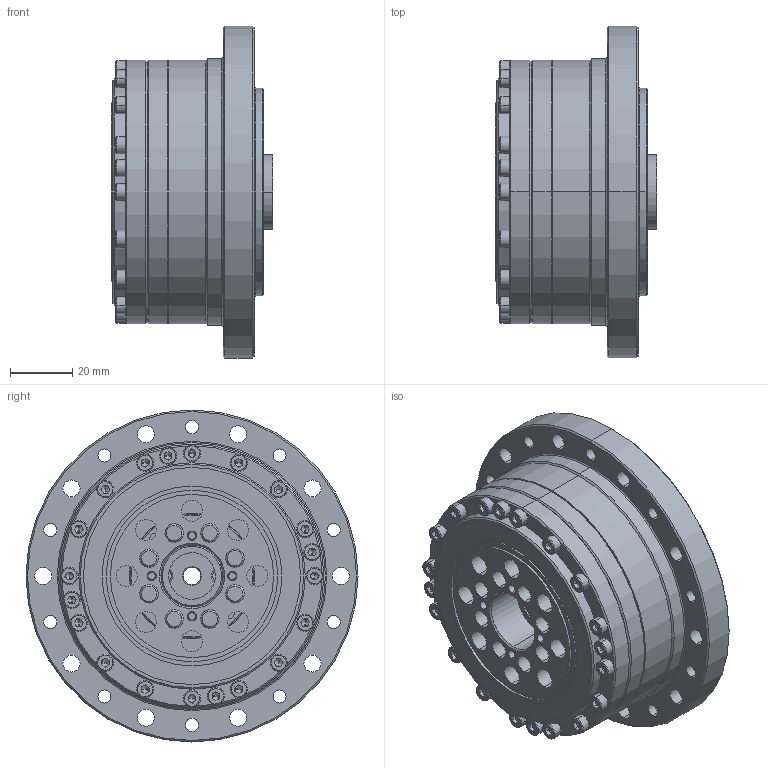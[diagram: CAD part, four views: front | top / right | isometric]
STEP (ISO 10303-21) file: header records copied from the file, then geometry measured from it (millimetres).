
FILE_DESCRIPTION (( 'STEP AP203' ), '1' );
FILE_NAME ('FCG-25-XXX-AJ.STEP', '2023-01-16T05:24:52', ( '微软用户' ), ( '微软中国' ), 'SwSTEP 2.0', 'SolidWorks 2016', '' );
FILE_SCHEMA (( 'CONFIG_CONTROL_DESIGN' ));
Products named in the file (1): FCG-25-XXX-AJ
Bounding box: 52 x 107 x 107 mm (x, y, z)
Volume: 199842 mm3; surface area: 131075.4 mm2
Topology: 72 solids, 72 shells, 1526 faces, 3589 edges, 2167 vertices
Faces by surface type: cylinder 547, plane 547, cone 236, bspline 112, sphere 46, torus 38
Entity records: 52571 total; most frequent: CARTESIAN_POINT 17989, DIRECTION 7598, ORIENTED_EDGE 6764, EDGE_CURVE 3382, AXIS2_PLACEMENT_3D 3027, VERTEX_POINT 2098, EDGE_LOOP 1868, CIRCLE 1612
